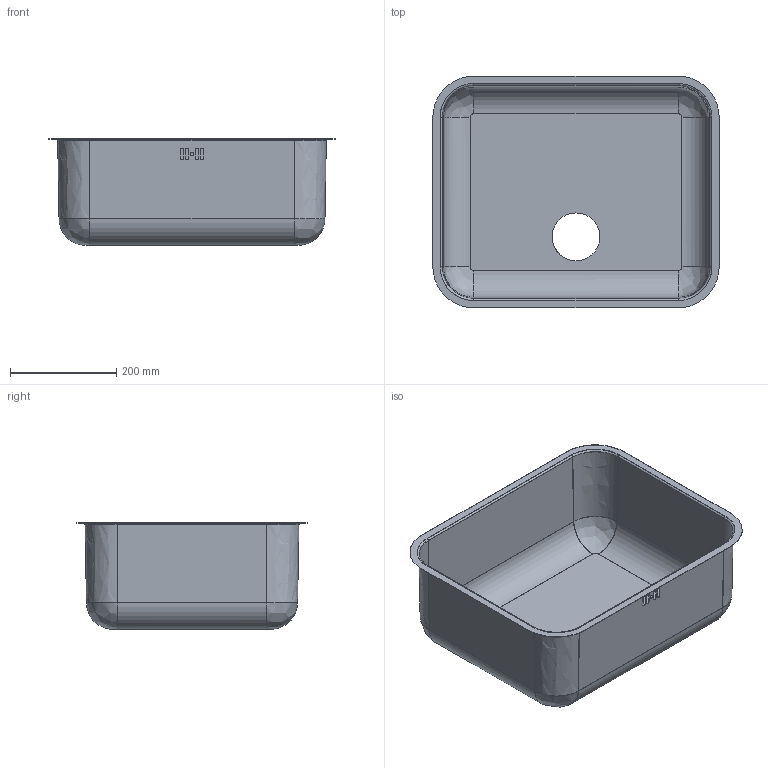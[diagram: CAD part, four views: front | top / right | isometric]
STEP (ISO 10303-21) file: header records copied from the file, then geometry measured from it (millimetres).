
FILE_DESCRIPTION((''),'1');
FILE_NAME('C:/Users/linop/Desktop/UM50.stp','2018-02-26T14:12:36',(''),(''),'Spatial Interop R20 SP1','Kubotek KeyCreator V9.0.3 (16864)',' ');
FILE_SCHEMA(('CONFIG_CONTROL_DESIGN'));
Length unit declared in the file: millimetre
Products named in the file (1): 1
Bounding box: 539 x 436 x 200.8 mm (x, y, z)
Volume: 414588.3 mm3; surface area: 1038326.6 mm2
Topology: 1 solids, 1 shells, 78 faces, 196 edges, 119 vertices
Faces by surface type: cylinder 30, plane 24, bspline 24
Full cylindrical faces by diameter (mm): 6.5 x1, 90 x1
Entity records: 7368 total; most frequent: CARTESIAN_POINT 5677, ORIENTED_EDGE 382, DIRECTION 248, EDGE_CURVE 191, VERTEX_POINT 119, EDGE_LOOP 94, LINE 88, VECTOR 88
